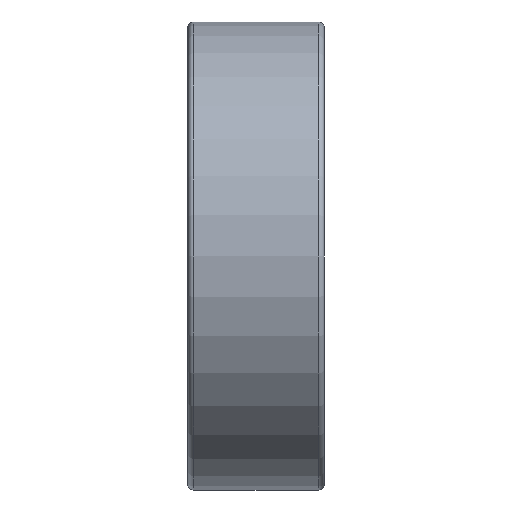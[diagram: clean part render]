
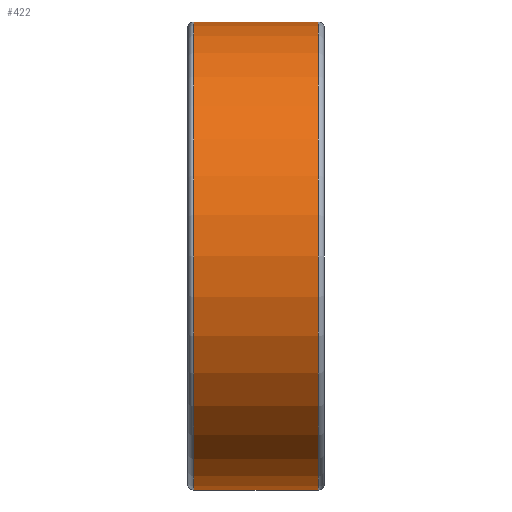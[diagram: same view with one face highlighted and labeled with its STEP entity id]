
A CAD part, front view. The second image highlights one B-rep face of the part: STEP entity #422.
In plain terms, the highlighted cylindrical face has radius 12 mm (diameter 24 mm), a full revolution.
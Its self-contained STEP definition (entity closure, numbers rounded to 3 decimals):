
#143=CYLINDRICAL_SURFACE('',#638,12.);
#211=EDGE_LOOP('',(#291));
#212=EDGE_LOOP('',(#292));
#291=ORIENTED_EDGE('',*,*,#339,.F.);
#292=ORIENTED_EDGE('',*,*,#337,.T.);
#337=EDGE_CURVE('',#581,#581,#357,.T.);
#339=EDGE_CURVE('',#583,#583,#359,.T.);
#357=CIRCLE('',#634,12.);
#359=CIRCLE('',#637,12.);
#422=ADVANCED_FACE('',(#515,#516),#143,.T.);
#515=FACE_BOUND('',#211,.T.);
#516=FACE_BOUND('',#212,.T.);
#581=VERTEX_POINT('',#2018);
#583=VERTEX_POINT('',#2023);
#634=AXIS2_PLACEMENT_3D('',#2017,#738,#739);
#637=AXIS2_PLACEMENT_3D('',#2022,#744,#745);
#638=AXIS2_PLACEMENT_3D('',#2024,#746,#747);
#738=DIRECTION('',(1.,0.,0.));
#739=DIRECTION('',(0.,0.,-1.));
#744=DIRECTION('',(1.,0.,0.));
#745=DIRECTION('',(0.,0.,-1.));
#746=DIRECTION('',(1.,0.,0.));
#747=DIRECTION('',(0.,0.,-1.));
#2017=CARTESIAN_POINT('',(-3.2,0.,0.));
#2018=CARTESIAN_POINT('',(-3.2,0.,-12.));
#2022=CARTESIAN_POINT('',(3.2,0.,0.));
#2023=CARTESIAN_POINT('',(3.2,0.,-12.));
#2024=CARTESIAN_POINT('',(-3.2,0.,0.));
